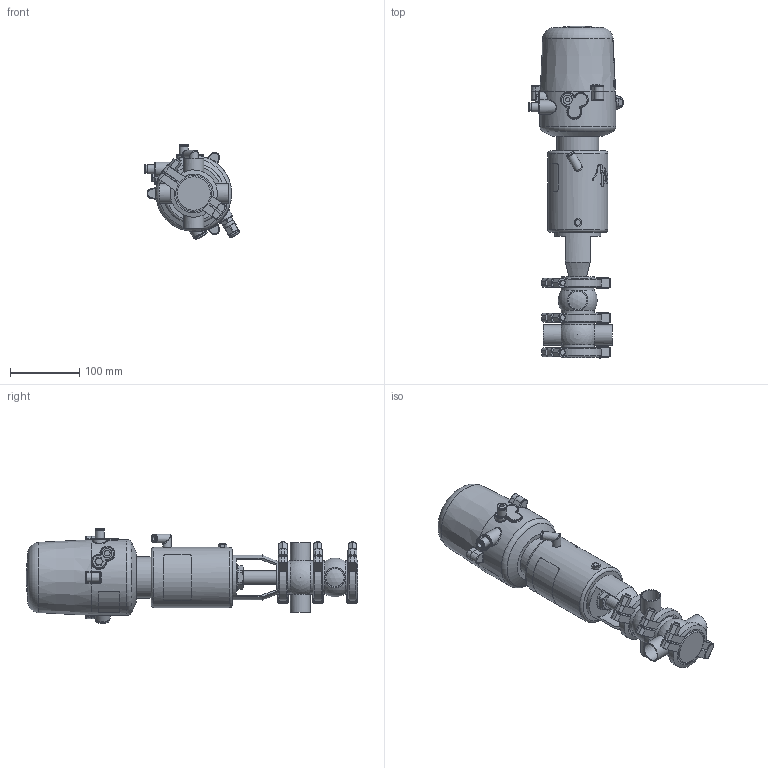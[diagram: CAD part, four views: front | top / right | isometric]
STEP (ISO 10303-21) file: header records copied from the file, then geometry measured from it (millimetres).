
FILE_DESCRIPTION (( 'STEP AP214' ), '1' );
FILE_NAME ('INNOVA M C W DIN 025 T1 AS NC & C-TOP S_10.241.16.0043.STEP', '2024-08-07T06:29:46', ( '' ), ( '' ), 'SwSTEP 2.0', 'SolidWorks 2023', '' );
FILE_SCHEMA (( 'AUTOMOTIVE_DESIGN' ));
Length unit declared in the file: millimetre
Products named in the file (8): 10.240.15.0007_DIN 025; INNOVA M C W DIN 025 T1 AS NC & C-TOP S_10.241.16.0043; 10.240.15.0010_DN 025; 10.241.15.0001_DIN 025; 10.240.15.0014_T1 AS P180; 10.426.15.0001_C-TOP S - 1 EV; 10.240.15.0001_DN 025; 10.240.15.0017_Estàndard
Assembly tree (10 placements, depth 2):
  INNOVA M C W DIN 025 T1 AS NC & C-TOP S_10.241.16.0043
    10.240.15.0007_DIN 025  x2
    10.240.15.0010_DN 025
    10.240.15.0014_T1 AS P180
    10.240.15.0017_Estàndard
    10.426.15.0001_C-TOP S - 1 EV
    10.240.15.0001_DN 025  x3
    10.241.15.0001_DIN 025
Bounding box: 136.88 x 478.09 x 137.63 mm (x, y, z)
Volume: 2557102.1 mm3; surface area: 256371.9 mm2
Topology: 11 solids, 11 shells, 1249 faces, 3048 edges, 2023 vertices
Faces by surface type: plane 444, cylinder 382, cone 215, bspline 160, torus 36, sphere 12
Full cylindrical faces by diameter (mm): 0.371 x17, 0.512 x16, 0.658 x16, 0.795 x16, 0.94 x15, 1.098 x15, 1.241 x13, 1.382 x13, 1.523 x11, 1.669 x10, 2.201 x1, 4 x2, 5.5 x2, 6 x2, 6.15 x1, 8 x8, 8.5 x1, 10 x1, 10.5 x1, 11 x2, 12.5 x3, 13 x2, 13.5 x2, 16 x1, 17 x3, 20 x3, 20.5 x1, 22 x2, 26 x4, 29 x4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
Entity records: 56972 total; most frequent: CARTESIAN_POINT 26698, ORIENTED_EDGE 4536, DIRECTION 3663, EDGE_CURVE 2268, VERTEX_POINT 1609, EDGE_LOOP 1557, AXIS2_PLACEMENT_3D 1499, FACE_OUTER_BOUND 1325
